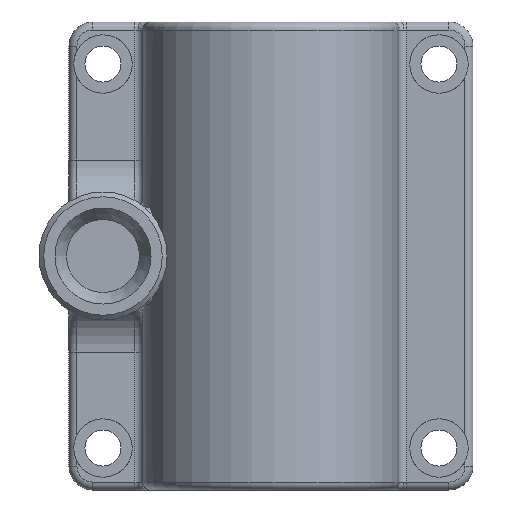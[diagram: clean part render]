
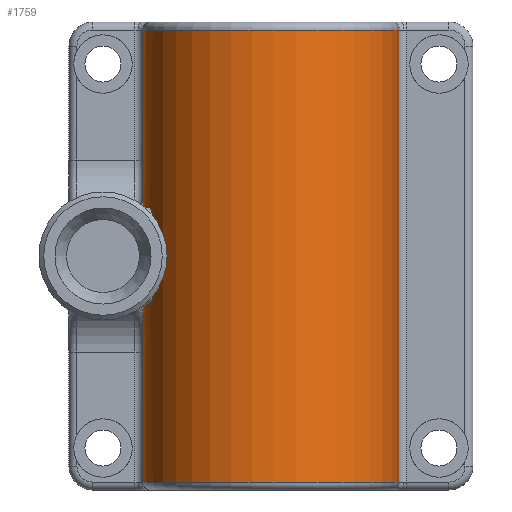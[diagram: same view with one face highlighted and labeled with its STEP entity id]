
A CAD part, left-side view. The second image highlights one B-rep face of the part: STEP entity #1759.
In plain terms, the highlighted cylindrical face has radius 16 mm (diameter 32 mm), a partial arc.
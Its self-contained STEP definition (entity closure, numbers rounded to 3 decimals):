
#31=B_SPLINE_CURVE_WITH_KNOTS($,3,(#2873,#2874,#2875,#2876,#2877,#2878,
#2879,#2880,#2881,#2882),.UNSPECIFIED.,.F.,.F.,(4,2,2,2,4),(0.154,
0.193,0.233,0.271,0.309),
 .UNSPECIFIED.);
#32=B_SPLINE_CURVE_WITH_KNOTS($,3,(#2886,#2887,#2888,#2889,#2890,#2891,
#2892,#2893,#2894,#2895),.UNSPECIFIED.,.F.,.F.,(4,2,2,2,4),(0.,0.038,
0.075,0.115,0.155),.UNSPECIFIED.);
#70=LINE($,#2863,#162);
#73=LINE($,#2869,#165);
#74=LINE($,#2884,#166);
#75=LINE($,#2899,#167);
#162=VECTOR($,#2241,56.5);
#165=VECTOR($,#2246,22.25);
#166=VECTOR($,#2249,10.);
#167=VECTOR($,#2252,22.25);
#244=CYLINDRICAL_SURFACE($,#1913,16.);
#352=FACE_OUTER_BOUND($,#477,.T.);
#477=EDGE_LOOP($,(#1207,#1208,#1209,#1210,#1211,#1212,#1213,#1214,#1215,
#1216));
#618=CIRCLE($,#1908,16.);
#621=CIRCLE($,#1914,16.);
#622=CIRCLE($,#1915,16.);
#623=CIRCLE($,#1916,16.);
#762=VERTEX_POINT($,#2841);
#763=VERTEX_POINT($,#2845);
#765=VERTEX_POINT($,#2862);
#767=VERTEX_POINT($,#2868);
#768=VERTEX_POINT($,#2870);
#769=VERTEX_POINT($,#2872);
#770=VERTEX_POINT($,#2883);
#771=VERTEX_POINT($,#2885);
#772=VERTEX_POINT($,#2896);
#773=VERTEX_POINT($,#2898);
#930=EDGE_CURVE($,#763,#762,#618,.T.);
#933=EDGE_CURVE($,#765,#762,#70,.T.);
#936=EDGE_CURVE($,#763,#767,#73,.T.);
#937=EDGE_CURVE($,#767,#768,#621,.T.);
#938=EDGE_CURVE($,#769,#768,#31,.F.);
#939=EDGE_CURVE($,#769,#770,#74,.T.);
#940=EDGE_CURVE($,#771,#770,#32,.F.);
#941=EDGE_CURVE($,#771,#772,#622,.T.);
#942=EDGE_CURVE($,#772,#773,#75,.T.);
#943=EDGE_CURVE($,#765,#773,#623,.T.);
#1207=ORIENTED_EDGE($,*,*,#930,.F.);
#1208=ORIENTED_EDGE($,*,*,#936,.T.);
#1209=ORIENTED_EDGE($,*,*,#937,.T.);
#1210=ORIENTED_EDGE($,*,*,#938,.F.);
#1211=ORIENTED_EDGE($,*,*,#939,.T.);
#1212=ORIENTED_EDGE($,*,*,#940,.F.);
#1213=ORIENTED_EDGE($,*,*,#941,.T.);
#1214=ORIENTED_EDGE($,*,*,#942,.T.);
#1215=ORIENTED_EDGE($,*,*,#943,.F.);
#1216=ORIENTED_EDGE($,*,*,#933,.T.);
#1759=ADVANCED_FACE($,(#352),#244,.T.);
#1908=AXIS2_PLACEMENT_3D($,#2856,#2231,#2232);
#1913=AXIS2_PLACEMENT_3D($,#2867,#2244,#2245);
#1914=AXIS2_PLACEMENT_3D($,#2871,#2247,#2248);
#1915=AXIS2_PLACEMENT_3D($,#2897,#2250,#2251);
#1916=AXIS2_PLACEMENT_3D($,#2900,#2253,#2254);
#2231=DIRECTION('center_axis',(0.,0.,1.));
#2232=DIRECTION('ref_axis',(-1.,-0.023,0.));
#2241=DIRECTION($,(0.,0.,1.));
#2244=DIRECTION('center_axis',(0.,0.,1.));
#2245=DIRECTION('ref_axis',(0.,1.,0.));
#2246=DIRECTION($,(0.,0.,-1.));
#2247=DIRECTION('center_axis',(0.,0.,1.));
#2248=DIRECTION('ref_axis',(0.,1.,0.));
#2249=DIRECTION($,(0.,0.,-1.));
#2250=DIRECTION('center_axis',(0.,0.,-1.));
#2251=DIRECTION('ref_axis',(0.,1.,0.));
#2252=DIRECTION($,(0.,0.,-1.));
#2253=DIRECTION('center_axis',(0.,0.,-1.));
#2254=DIRECTION('ref_axis',(-1.,-0.023,0.));
#2841=CARTESIAN_POINT('',(-107.922,51.696,57.5));
#2845=CARTESIAN_POINT('',(-108.672,83.678,57.5));
#2856=CARTESIAN_POINT('Origin',(-107.922,67.696,57.5));
#2862=CARTESIAN_POINT('',(-107.922,51.696,1.));
#2863=CARTESIAN_POINT($,(-107.922,51.696,0.));
#2867=CARTESIAN_POINT('Origin',(-107.922,67.696,0.));
#2868=CARTESIAN_POINT('',(-108.672,83.678,35.25));
#2869=CARTESIAN_POINT($,(-108.672,83.678,0.));
#2870=CARTESIAN_POINT('',(-112.922,82.894,35.25));
#2871=CARTESIAN_POINT('Origin',(-107.922,67.696,35.25));
#2872=CARTESIAN_POINT('',(-113.922,82.528,34.25));
#2873=CARTESIAN_POINT('Ctrl Pts',(-112.922,82.894,35.25));
#2874=CARTESIAN_POINT('Ctrl Pts',(-113.047,82.853,35.25));
#2875=CARTESIAN_POINT('Ctrl Pts',(-113.181,82.808,35.225));
#2876=CARTESIAN_POINT('Ctrl Pts',(-113.427,82.72,35.124));
#2877=CARTESIAN_POINT('Ctrl Pts',(-113.54,82.678,35.047));
#2878=CARTESIAN_POINT('Ctrl Pts',(-113.717,82.61,34.87));
#2879=CARTESIAN_POINT('Ctrl Pts',(-113.794,82.58,34.759));
#2880=CARTESIAN_POINT('Ctrl Pts',(-113.896,82.539,34.513));
#2881=CARTESIAN_POINT('Ctrl Pts',(-113.922,82.528,34.378));
#2882=CARTESIAN_POINT('Ctrl Pts',(-113.922,82.528,34.25));
#2883=CARTESIAN_POINT('',(-113.922,82.528,24.25));
#2884=CARTESIAN_POINT($,(-113.922,82.528,0.));
#2885=CARTESIAN_POINT('',(-112.922,82.894,23.25));
#2886=CARTESIAN_POINT('Ctrl Pts',(-113.922,82.528,24.25));
#2887=CARTESIAN_POINT('Ctrl Pts',(-113.922,82.528,24.125));
#2888=CARTESIAN_POINT('Ctrl Pts',(-113.897,82.538,23.992));
#2889=CARTESIAN_POINT('Ctrl Pts',(-113.797,82.578,23.748));
#2890=CARTESIAN_POINT('Ctrl Pts',(-113.723,82.608,23.638));
#2891=CARTESIAN_POINT('Ctrl Pts',(-113.548,82.674,23.459));
#2892=CARTESIAN_POINT('Ctrl Pts',(-113.434,82.717,23.38));
#2893=CARTESIAN_POINT('Ctrl Pts',(-113.185,82.806,23.276));
#2894=CARTESIAN_POINT('Ctrl Pts',(-113.049,82.853,23.25));
#2895=CARTESIAN_POINT('Ctrl Pts',(-112.922,82.894,23.25));
#2896=CARTESIAN_POINT('',(-108.672,83.678,23.25));
#2897=CARTESIAN_POINT('Origin',(-107.922,67.696,23.25));
#2898=CARTESIAN_POINT('',(-108.672,83.678,1.));
#2899=CARTESIAN_POINT($,(-108.672,83.678,0.));
#2900=CARTESIAN_POINT('Origin',(-107.922,67.696,1.));
